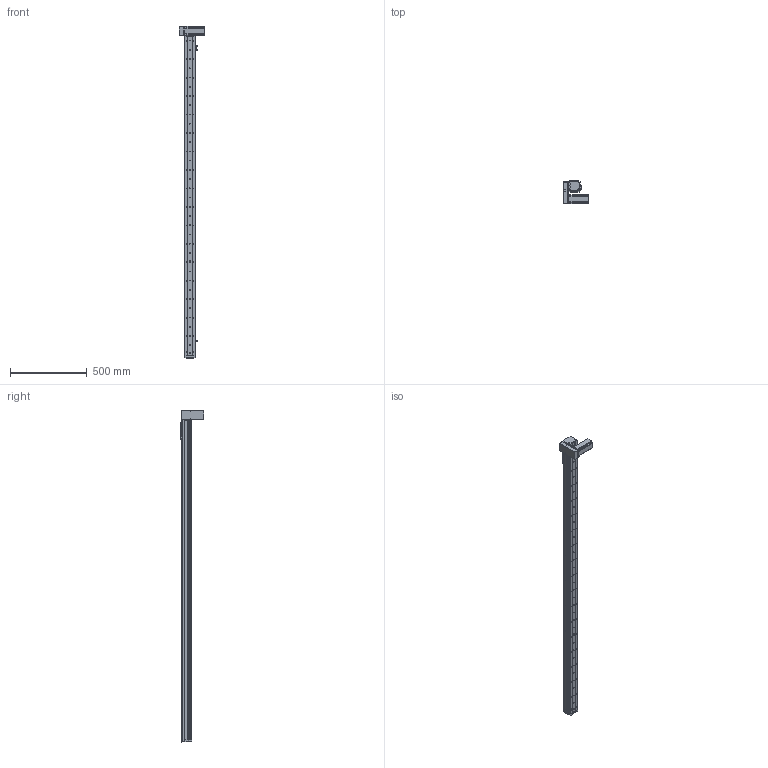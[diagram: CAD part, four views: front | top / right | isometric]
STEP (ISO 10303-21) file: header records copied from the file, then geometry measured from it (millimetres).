
FILE_DESCRIPTION (( 'STEP AP214' ), '1' );
FILE_NAME ('KSD68BS-S1900-MRD-CR.STEP', '2019-08-28T02:55:59', ( '微软用户' ), ( '微软中国' ), 'SwSTEP 2.0', 'SolidWorks 2014', '' );
FILE_SCHEMA (( 'AUTOMOTIVE_DESIGN' ));
Length unit declared in the file: millimetre
Products named in the file (14): KSD68BS 1900行程底板全封闭; KSD68BS-S1900-MRD-CR; 68遵裔啣揤啣1; 68宽单导轨全封闭丝杆传动安装板1防护罩; KSD68BS 1900行程盖板全封闭; KSD68BS 1900行程侧板全封闭; 68宽单导轨全封闭同步带端板; 68单导轨全封闭同步带电机座右; 68单导轨全封闭同步带安装板; 悵誘欶奻狟殏; 68宽马达安装板连板上折同步带; 感应片68宽全封闭; U倰嫖萇EEㄜSX672; 台达ECMA－C20604AS伺服电机（400W)
Assembly tree (17 placements, depth 2):
  KSD68BS-S1900-MRD-CR
    KSD68BS 1900行程底板全封闭
    台达ECMA－C20604AS伺服电机（400W)
    U倰嫖萇EEㄜSX672  x3
    感应片68宽全封闭
    68宽马达安装板连板上折同步带
    悵誘欶奻狟殏
    68单导轨全封闭同步带安装板
    68单导轨全封闭同步带电机座右
    68宽单导轨全封闭同步带端板
    KSD68BS 1900行程侧板全封闭  x2
    68宽单导轨全封闭丝杆传动安装板1防护罩
    68遵裔啣揤啣1  x2
    KSD68BS 1900行程盖板全封闭
Bounding box: 167.2 x 155.5 x 2158.1 mm (x, y, z)
Volume: 3749977.5 mm3; surface area: 1543890.1 mm2
Topology: 18 solids, 18 shells, 1652 faces, 4785 edges, 3043 vertices
Faces by surface type: cylinder 821, plane 631, cone 200
Entity records: 54514 total; most frequent: CARTESIAN_POINT 9505, DIRECTION 8101, ORIENTED_EDGE 7750, EDGE_CURVE 3875, AXIS2_PLACEMENT_3D 2965, VERTEX_POINT 2541, VECTOR 2171, LINE 2171
